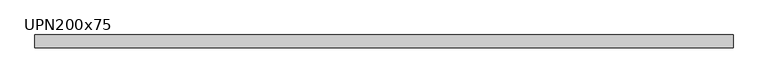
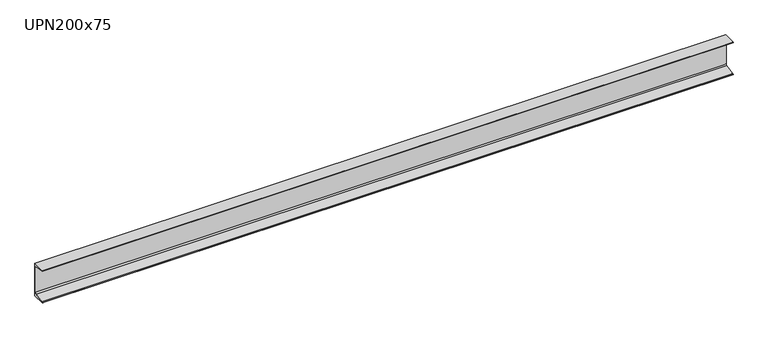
"""IFC4 building model written with IfcOpenShell, lengths in millimetres: beam geometry, M_MC Shapes : UPN200x75."""

from ifc_helpers import new_model, si_unit, point, frame, frame_2d, origin, place, context, project, spatial, polyline, circle_curve, trimmed, segment, composite_curve, outline, extrude, source, transform, mapped, element, save


def upn200x75_963e3bf5(model_context):
    return source(origin(), model_context, "Body", "SweptSolid", [
        extrude(outline(composite_curve([segment(polyline([(10.9, 100.0), (10.9, -100.0), (-64.1, -100.0), (-64.1, -99.0253247)]), True, "CONTINUOUS"), segment(trimmed(circle_curve(frame_2d((-60.15, -99.0253247)), 3.95), [point((-64.1, -99.0253247))], [point((-60.7993773, -95.1290689))], False, "CARTESIAN"), True, "CONTINUOUS"), segment(polyline([(-60.7993773, -95.1290689), (-0.2512455, -85.0376935)]), True, "CONTINUOUS"), segment(trimmed(circle_curve(frame_2d((-1.55, -77.2451819)), 7.9), [point((-0.2512455, -85.0376935))], [point((6.35, -77.2451819))], True, "CARTESIAN"), True, "CONTINUOUS"), segment(polyline([(6.35, -77.2451819), (6.35, 77.2451819)]), True, "CONTINUOUS"), segment(trimmed(circle_curve(frame_2d((-1.55, 77.2451819)), 7.9), [point((6.35, 77.2451819))], [point((-0.2512455, 85.0376935))], True, "CARTESIAN"), True, "CONTINUOUS"), segment(polyline([(-0.2512455, 85.0376935), (-60.7993773, 95.1290689)]), True, "CONTINUOUS"), segment(trimmed(circle_curve(frame_2d((-60.15, 99.0253247)), 3.95), [point((-60.7993773, 95.1290689))], [point((-64.1, 99.0253247))], False, "CARTESIAN"), True, "CONTINUOUS"), segment(polyline([(-64.1, 99.0253247), (-64.1, 100.0), (10.9, 100.0)]), True, "CONTINUOUS")], self_intersect=False)), frame((-2019.4, 0.0, 0.0), z_axis=(1.0, 0.0, 0.0), x_axis=(0.0, 1.0, 0.0)), (0.0, 0.0, 1.0), 4038.8),
    ])


if __name__ == "__main__":
    model = new_model("IFC4")
    model_context = context("Model", 3, world=origin())
    ifc_project = project(units=[si_unit("LENGTHUNIT", "METRE", prefix="MILLI")], contexts=[model_context])
    site = spatial("IfcSite", under=ifc_project)
    building = spatial("IfcBuilding", under=site)
    placement = place(None, origin())
    upn200x75_shape = upn200x75_963e3bf5(model_context)
    element("IfcBeam", 1, ObjectType="M_MC Shapes : UPN200x75", at=placement, inside=building, context=model_context, shape_type="MappedRepresentation", body=[
        mapped(upn200x75_shape, transform((0.0, 0.0, 0.0), x_axis=(1.0, 0.0, 0.0), y_axis=(0.0, 1.0, 0.0), z_axis=(0.0, 0.0, 1.0))),
    ])
    save(model, "model.ifc")
